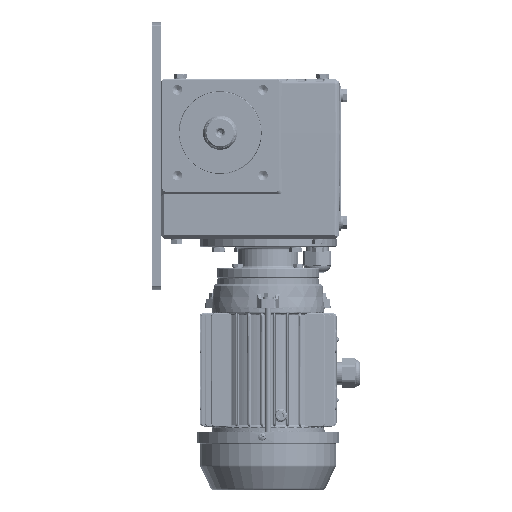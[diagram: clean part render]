
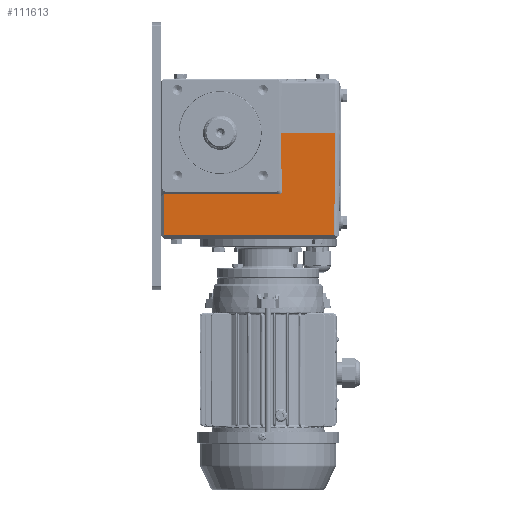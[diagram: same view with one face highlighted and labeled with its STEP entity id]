
A CAD part, left-side view. The second image highlights one B-rep face of the part: STEP entity #111613.
In plain terms, the highlighted planar face has unit normal (-1, 0, -0.009).
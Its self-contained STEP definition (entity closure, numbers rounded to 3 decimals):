
#1783 = DIRECTION ( 'NONE',  ( 0., -1., 0. ) ) ;
#22046 = VECTOR ( 'NONE', #60779, 1000. ) ;
#23856 = CARTESIAN_POINT ( 'NONE',  ( -92.529, 49.529, -53.971 ) ) ;
#30541 = CARTESIAN_POINT ( 'NONE',  ( -93., 53., 0. ) ) ;
#34534 = CARTESIAN_POINT ( 'NONE',  ( -92.215, 53., -90. ) ) ;
#50869 = DIRECTION ( 'NONE',  ( -1., 0., -0.009 ) ) ;
#60779 = DIRECTION ( 'NONE',  ( 0., -1., 0. ) ) ;
#66099 = DIRECTION ( 'NONE',  ( -0.009, -0.009, 1. ) ) ;
#80750 = EDGE_LOOP ( 'NONE', ( #366689, #461255, #314693, #133303, #285821, #302932, #224440, #417499 ) ) ;
#111613 = ADVANCED_FACE ( 'NONE', ( #173486 ), #116194, .T. ) ;
#116194 = PLANE ( 'NONE',  #125745 ) ;
#118818 = LINE ( 'NONE', #244042, #384010 ) ;
#124357 = VECTOR ( 'NONE', #382441, 1000. ) ;
#125745 = AXIS2_PLACEMENT_3D ( 'NONE', #133473, #50869, #246366 ) ;
#133303 = ORIENTED_EDGE ( 'NONE', *, *, #210460, .F. ) ;
#133473 = CARTESIAN_POINT ( 'NONE',  ( -93., 53., 0. ) ) ;
#133553 = LINE ( 'NONE', #30541, #22046 ) ;
#137630 = VERTEX_POINT ( 'NONE', #370368 ) ;
#146228 = LINE ( 'NONE', #296865, #221717 ) ;
#165326 = EDGE_CURVE ( 'NONE', #409323, #181229, #379509, .T. ) ;
#173486 = FACE_OUTER_BOUND ( 'NONE', #80750, .T. ) ;
#181229 = VERTEX_POINT ( 'NONE', #340400 ) ;
#202326 = CARTESIAN_POINT ( 'NONE',  ( -92.548, -53.952, -51.831 ) ) ;
#210460 = EDGE_CURVE ( 'NONE', #181229, #417480, #133553, .T. ) ;
#221108 = CARTESIAN_POINT ( 'NONE',  ( -92.548, -53.952, -51.831 ) ) ;
#221717 = VECTOR ( 'NONE', #66099, 1000. ) ;
#222369 = CARTESIAN_POINT ( 'NONE',  ( -93., -100.757, 0. ) ) ;
#224440 = ORIENTED_EDGE ( 'NONE', *, *, #332118, .T. ) ;
#232290 = VECTOR ( 'NONE', #304214, 1000. ) ;
#240605 = EDGE_CURVE ( 'NONE', #390369, #137630, #493751, .T. ) ;
#244042 = CARTESIAN_POINT ( 'NONE',  ( -92.585, 49.585, -47.5 ) ) ;
#246366 = DIRECTION ( 'NONE',  ( -0.009, 0., 1. ) ) ;
#278195 = VERTEX_POINT ( 'NONE', #23856 ) ;
#279554 = VERTEX_POINT ( 'NONE', #387965 ) ;
#279697 = EDGE_CURVE ( 'NONE', #376809, #409323, #339832, .T. ) ;
#280155 = CARTESIAN_POINT ( 'NONE',  ( -92.536, -53.964, -53.188 ) ) ;
#282654 = CARTESIAN_POINT ( 'NONE',  ( -92.529, -53.195, -53.971 ) ) ;
#285821 = ORIENTED_EDGE ( 'NONE', *, *, #165326, .F. ) ;
#288298 = CARTESIAN_POINT ( 'NONE',  ( -92.529, 53., -53.971 ) ) ;
#295715 = LINE ( 'NONE', #288298, #304104 ) ;
#296102 = EDGE_CURVE ( 'NONE', #278195, #279554, #295715, .T. ) ;
#296865 = CARTESIAN_POINT ( 'NONE',  ( -93., -100.757, 0.011 ) ) ;
#302932 = ORIENTED_EDGE ( 'NONE', *, *, #279697, .F. ) ;
#304104 = VECTOR ( 'NONE', #441392, 1000. ) ;
#304214 = DIRECTION ( 'NONE',  ( 0., -1., 0. ) ) ;
#314413 = DIRECTION ( 'NONE',  ( 0.009, -0.009, -1. ) ) ;
#314693 = ORIENTED_EDGE ( 'NONE', *, *, #440526, .T. ) ;
#323683 = EDGE_CURVE ( 'NONE', #278195, #390369, #118818, .T. ) ;
#327922 =( BOUNDED_CURVE ( )  B_SPLINE_CURVE ( 3, ( #202326, #280155, #282654, #393123 ),
 .UNSPECIFIED., .F., .F. ) 
 B_SPLINE_CURVE_WITH_KNOTS ( ( 4, 4 ),
 ( 2.61, 3.658 ),
 .UNSPECIFIED. ) 
 CURVE ( )  GEOMETRIC_REPRESENTATION_ITEM ( )  RATIONAL_B_SPLINE_CURVE ( ( 1., 0.911, 0.911, 1. ) ) 
 REPRESENTATION_ITEM ( '' )  );
#332118 = EDGE_CURVE ( 'NONE', #376809, #279554, #327922, .T. ) ;
#339832 = LINE ( 'NONE', #495404, #124357 ) ;
#340400 = CARTESIAN_POINT ( 'NONE',  ( -93., -100.756, 0. ) ) ;
#366689 = ORIENTED_EDGE ( 'NONE', *, *, #323683, .T. ) ;
#370368 = CARTESIAN_POINT ( 'NONE',  ( -92.215, -99.972, -90. ) ) ;
#376809 = VERTEX_POINT ( 'NONE', #221108 ) ;
#379509 = LINE ( 'NONE', #452364, #232290 ) ;
#382441 = DIRECTION ( 'NONE',  ( -0.009, 0.009, 1. ) ) ;
#384010 = VECTOR ( 'NONE', #314413, 1000. ) ;
#387965 = CARTESIAN_POINT ( 'NONE',  ( -92.529, -51.85, -53.971 ) ) ;
#390369 = VERTEX_POINT ( 'NONE', #403915 ) ;
#393123 = CARTESIAN_POINT ( 'NONE',  ( -92.529, -51.85, -53.971 ) ) ;
#403915 = CARTESIAN_POINT ( 'NONE',  ( -92.215, 49.215, -90. ) ) ;
#409323 = VERTEX_POINT ( 'NONE', #428914 ) ;
#417480 = VERTEX_POINT ( 'NONE', #222369 ) ;
#417499 = ORIENTED_EDGE ( 'NONE', *, *, #296102, .F. ) ;
#428914 = CARTESIAN_POINT ( 'NONE',  ( -93., -53.5, 0. ) ) ;
#440526 = EDGE_CURVE ( 'NONE', #137630, #417480, #146228, .T. ) ;
#441392 = DIRECTION ( 'NONE',  ( 0., -1., 0. ) ) ;
#452364 = CARTESIAN_POINT ( 'NONE',  ( -93., 53., 0. ) ) ;
#461255 = ORIENTED_EDGE ( 'NONE', *, *, #240605, .T. ) ;
#480295 = VECTOR ( 'NONE', #1783, 1000. ) ;
#493751 = LINE ( 'NONE', #34534, #480295 ) ;
#495404 = CARTESIAN_POINT ( 'NONE',  ( -93.008, -53.492, 0.929 ) ) ;
